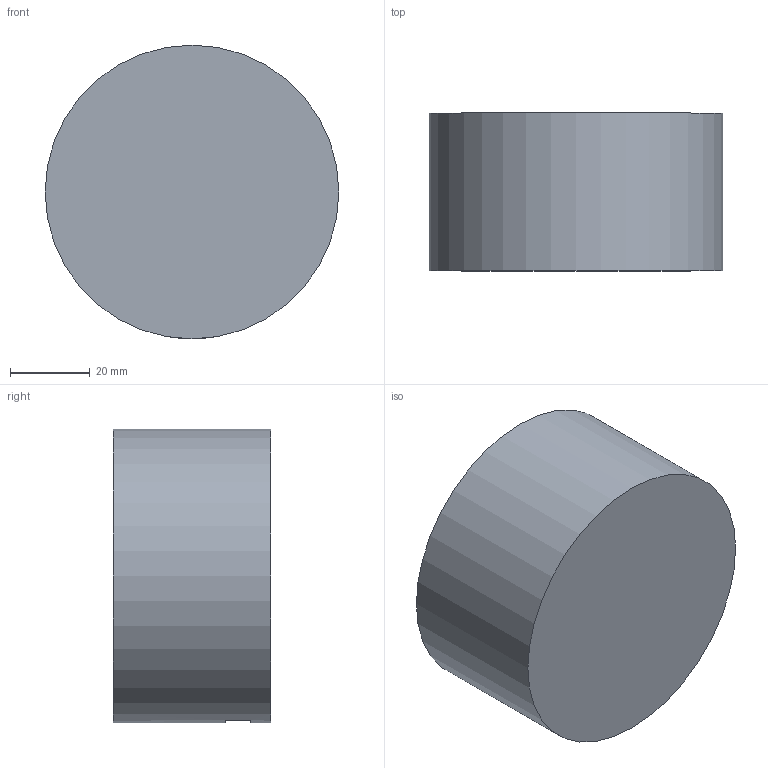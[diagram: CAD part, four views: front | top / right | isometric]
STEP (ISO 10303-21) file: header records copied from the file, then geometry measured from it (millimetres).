
FILE_DESCRIPTION(/* description */ ('STEP AP242 Edition 2','CAx-IF Rec.Pracs.---Representation and Presentation of Product Manufacturing Information (PMI)---4.0---2014-10-13','CAx-IF Rec.Pracs.---3D Tessellated Geometry---0.4---2014-09-14','2;1','CAx-IF Rec.Pracs.---User Defined Attributes---1.5---2016-08-15'),/* implementation_level */ '2;1');
FILE_NAME(/* name */ 'Assembly 1 - Part 1 (1)',/* time_stamp */ '2026-04-30T00:36:45Z',/* author */ (''),/* organization */ (''),/* preprocessor_version */ 'ST-DEVELOPER v20',/* originating_system */ 'ONSHAPE BY PTC INC, 1.214',/* authorisation */ ' ');
FILE_SCHEMA (('AP242_MANAGED_MODEL_BASED_3D_ENGINEERING_MIM_LF { 1 0 10303 442 3 1 4 }'));
Length unit declared in the file: metre
Products named in the file (1): Part 1
Bounding box: 73.66 x 39.55 x 73.66 mm (x, y, z)
Volume: 49192.2 mm3; surface area: 24771.4 mm2
Topology: 1 solids, 1 shells, 30 faces, 81 edges, 54 vertices
Faces by surface type: plane 28, cylinder 2
Full cylindrical faces by diameter (mm): 70.993 x1, 73.66 x1
Entity records: 939 total; most frequent: CARTESIAN_POINT 162, ORIENTED_EDGE 156, DIRECTION 147, EDGE_CURVE 78, LINE 71, VECTOR 71, VERTEX_POINT 53, AXIS2_PLACEMENT_3D 38
